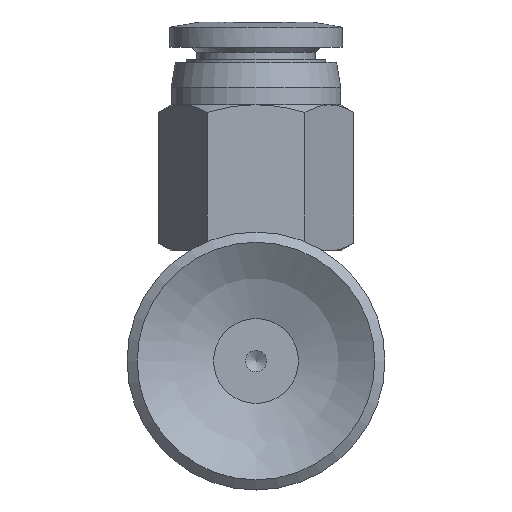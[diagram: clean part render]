
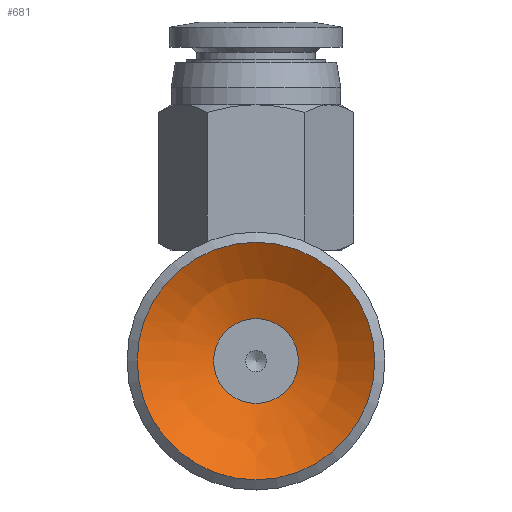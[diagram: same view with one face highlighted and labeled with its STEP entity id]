
A CAD part, front view. The second image highlights one B-rep face of the part: STEP entity #681.
In plain terms, the highlighted spherical face has radius 11.5 mm.
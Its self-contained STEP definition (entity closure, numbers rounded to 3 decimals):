
#681=ADVANCED_FACE('',(#1187,#1188),#1189,.F.);
#1187=FACE_OUTER_BOUND('',#1847,.T.);
#1188=FACE_OUTER_BOUND('',#1848,.T.);
#1189=SPHERICAL_SURFACE('',#1849,11.5);
#1847=EDGE_LOOP('',(#3508));
#1848=EDGE_LOOP('',(#3509));
#1849=AXIS2_PLACEMENT_3D('',#3510,#3511,#3512);
#3508=ORIENTED_EDGE('',*,*,#4588,.T.);
#3509=ORIENTED_EDGE('',*,*,#4589,.F.);
#3510=CARTESIAN_POINT('',(0.001,9.494,-22.735));
#3511=DIRECTION('',(0.0,0.,-1.0));
#3512=DIRECTION('',(1.0,0.0,0.0));
#4588=EDGE_CURVE('',#5408,#5408,#5409,.T.);
#4589=EDGE_CURVE('',#5410,#5410,#5411,.T.);
#5408=VERTEX_POINT('',#7395);
#5409=CIRCLE('',#7396,7.0);
#5410=VERTEX_POINT('',#7397);
#5411=CIRCLE('',#7398,2.5);
#7395=CARTESIAN_POINT('',(0.001,16.494,-13.611));
#7396=AXIS2_PLACEMENT_3D('',#8570,#8571,#8572);
#7397=CARTESIAN_POINT('',(0.001,11.994,-11.51));
#7398=AXIS2_PLACEMENT_3D('',#8573,#8574,#8575);
#8570=CARTESIAN_POINT('',(0.001,9.494,-13.611));
#8571=DIRECTION('',(0.0,0.,-1.0));
#8572=DIRECTION('',(0.0,1.0,0.));
#8573=CARTESIAN_POINT('',(0.001,9.494,-11.51));
#8574=DIRECTION('',(0.0,0.,-1.0));
#8575=DIRECTION('',(0.0,1.0,0.));
